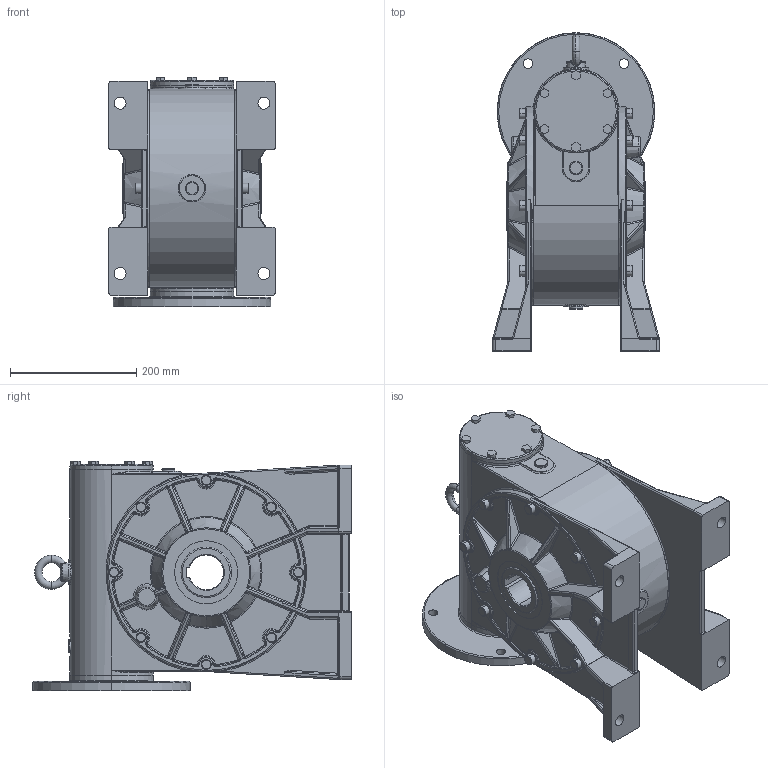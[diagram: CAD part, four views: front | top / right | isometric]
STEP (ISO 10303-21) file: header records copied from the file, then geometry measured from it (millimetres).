
FILE_DESCRIPTION (( 'STEP AP214' ), '1' );
FILE_NAME ('Sestava MRT150-A.STEP', '2007-07-04T04:16:14', ( '' ), ( '' ), 'SwSTEP 2.0', 'SolidWorks 2004146', '' );
FILE_SCHEMA (( 'AUTOMOTIVE_DESIGN' ));
Length unit declared in the file: millimetre
Products named in the file (3): Patka 150_Výchozí; Skrin MRT150_Mrt150-215-AP100; Sestava MRT150-A
Assembly tree (3 placements, depth 2):
  Sestava MRT150-A
    Patka 150_Výchozí  x2
    Skrin MRT150_Mrt150-215-AP100
Bounding box: 264 x 505 x 364.3 mm (x, y, z)
Volume: 18800076.4 mm3; surface area: 1157141.4 mm2
Topology: 3 solids, 3 shells, 1334 faces, 3183 edges, 1850 vertices
Faces by surface type: torus 403, cylinder 277, bspline 264, plane 213, sphere 120, cone 57
Entity records: 112954 total; most frequent: CARTESIAN_POINT 95591, DIRECTION 3670, ORIENTED_EDGE 3664, EDGE_CURVE 1832, AXIS2_PLACEMENT_3D 1615, VERTEX_POINT 1082, CIRCLE 974, EDGE_LOOP 818
